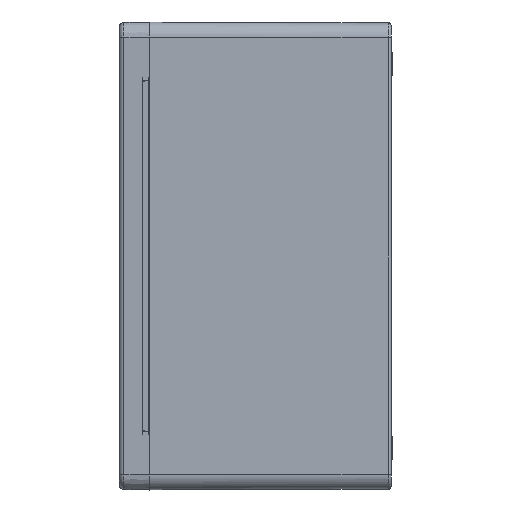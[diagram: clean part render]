
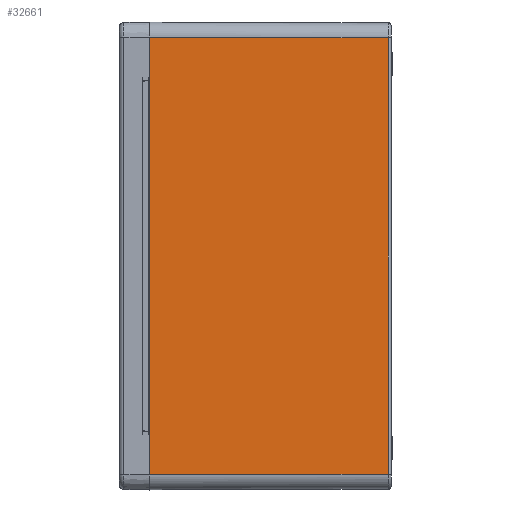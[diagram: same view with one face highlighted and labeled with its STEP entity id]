
A CAD part, left-side view. The second image highlights one B-rep face of the part: STEP entity #32661.
In plain terms, the highlighted planar face has unit normal (-1, -0.003, 0) as drawn and (1, -0.003, 0) by its records, which use the part's own axes.
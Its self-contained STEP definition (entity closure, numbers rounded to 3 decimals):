
#8718=DIRECTION('',(0.,0.,1.));
#8719=VECTOR('',#8718,290.);
#8720=CARTESIAN_POINT('',(300.,0.,-145.));
#8721=LINE('',#8720,#8719);
#8731=CARTESIAN_POINT('',(300.,0.,145.));
#9202=DIRECTION('',(0.003,1.,0.003));
#9203=VECTOR('',#9202,158.008);
#9204=CARTESIAN_POINT('',(299.506,-158.006,144.506));
#9205=LINE('',#9204,#9203);
#9209=DIRECTION('',(0.003,1.,-0.003));
#9210=VECTOR('',#9209,158.008);
#9211=CARTESIAN_POINT('',(299.506,-158.006,
-144.506));
#9212=LINE('',#9211,#9210);
#9216=DIRECTION('',(0.,0.,1.));
#9217=VECTOR('',#9216,289.013);
#9218=CARTESIAN_POINT('',(299.506,-158.006,
-144.506));
#9219=LINE('',#9218,#9217);
#26905=VERTEX_POINT('',#8731);
#26906=CARTESIAN_POINT('',(299.506,-158.006,
144.506));
#26907=VERTEX_POINT('',#26906);
#26912=CARTESIAN_POINT('',(300.,0.,-145.));
#26913=VERTEX_POINT('',#26912);
#26914=CARTESIAN_POINT('',(299.506,-158.006,
-144.506));
#26915=VERTEX_POINT('',#26914);
#32648=CARTESIAN_POINT('',(299.75,-80.,0.));
#32649=DIRECTION('',(1.,-0.003,0.));
#32650=DIRECTION('',(0.003,1.,0.));
#32651=AXIS2_PLACEMENT_3D('',#32648,#32649,#32650);
#32652=PLANE('',#32651);
#32653=ORIENTED_EDGE('',*,*,#32633,.T.);
#32654=ORIENTED_EDGE('',*,*,#32411,.F.);
#32656=ORIENTED_EDGE('',*,*,#32655,.F.);
#32658=ORIENTED_EDGE('',*,*,#32657,.T.);
#32659=EDGE_LOOP('',(#32653,#32654,#32656,#32658));
#32660=FACE_OUTER_BOUND('',#32659,.F.);
#32411=EDGE_CURVE('',#26913,#26905,#8721,.T.);
#32633=EDGE_CURVE('',#26907,#26905,#9205,.T.);
#32655=EDGE_CURVE('',#26915,#26913,#9212,.T.);
#32657=EDGE_CURVE('',#26915,#26907,#9219,.T.);
#32661=ADVANCED_FACE('',(#32660),#32652,.T.);
